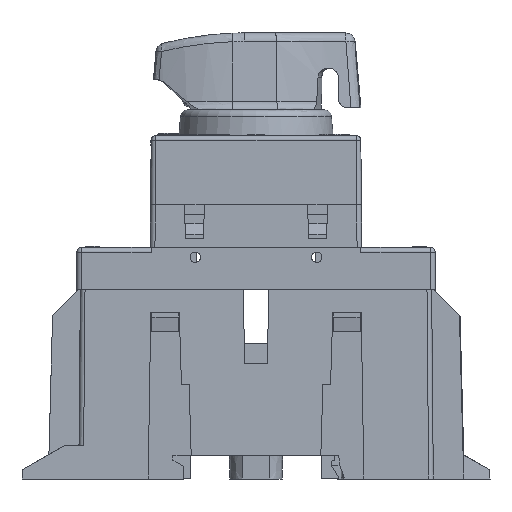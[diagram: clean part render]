
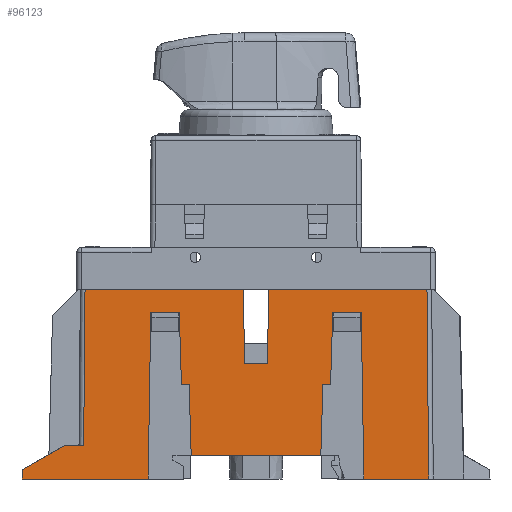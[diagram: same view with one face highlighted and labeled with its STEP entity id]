
A CAD part, left-side view. The second image highlights one B-rep face of the part: STEP entity #96123.
In plain terms, the highlighted planar face has unit normal (-1, 0, 0.009).
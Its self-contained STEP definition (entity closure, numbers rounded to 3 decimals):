
#70594=CARTESIAN_POINT('',(54.351,-23.908,-0.826));
#70595=VERTEX_POINT('',#70594);
#70602=CARTESIAN_POINT('',(54.351,-57.816,-0.826));
#70603=VERTEX_POINT('',#70602);
#70604=CARTESIAN_POINT('',(54.351,-57.816,-0.826));
#70605=DIRECTION('',(0.0,1.0,0.0));
#70606=VECTOR('',#70605,33.908);
#70607=LINE('',#70604,#70606);
#70608=EDGE_CURVE('',#70603,#70595,#70607,.T.);
#70773=CARTESIAN_POINT('',(54.351,15.277,-0.826));
#70774=VERTEX_POINT('',#70773);
#70782=CARTESIAN_POINT('',(54.351,-18.631,-0.826));
#70783=VERTEX_POINT('',#70782);
#70784=CARTESIAN_POINT('',(54.351,-18.631,-0.826));
#70785=DIRECTION('',(0.0,1.0,0.0));
#70786=VECTOR('',#70785,33.908);
#70787=LINE('',#70784,#70786);
#70788=EDGE_CURVE('',#70783,#70774,#70787,.T.);
#93194=CARTESIAN_POINT('',(53.997,1.78,-41.326));
#93195=VERTEX_POINT('',#93194);
#93202=CARTESIAN_POINT('',(53.997,28.748,-41.326));
#93203=VERTEX_POINT('',#93202);
#93204=CARTESIAN_POINT('',(53.997,1.78,-41.326));
#93205=DIRECTION('',(0.0,1.0,0.0));
#93206=VECTOR('',#93205,26.967);
#93207=LINE('',#93204,#93206);
#93208=EDGE_CURVE('',#93195,#93203,#93207,.T.);
#93807=CARTESIAN_POINT('',(54.06,19.568,-34.176));
#93808=VERTEX_POINT('',#93807);
#93815=CARTESIAN_POINT('',(54.06,15.568,-34.176));
#93816=VERTEX_POINT('',#93815);
#93817=CARTESIAN_POINT('',(54.06,15.568,-34.176));
#93818=DIRECTION('',(0.0,1.0,0.0));
#93819=VECTOR('',#93818,4.);
#93820=LINE('',#93817,#93819);
#93821=EDGE_CURVE('',#93816,#93808,#93820,.T.);
#94803=CARTESIAN_POINT('',(54.175,-6.966,-21.026));
#94804=VERTEX_POINT('',#94803);
#94811=CARTESIAN_POINT('',(54.175,-5.322,-21.026));
#94812=VERTEX_POINT('',#94811);
#94813=CARTESIAN_POINT('',(54.175,-6.966,-21.026));
#94814=DIRECTION('',(0.0,1.0,0.0));
#94815=VECTOR('',#94814,1.643);
#94816=LINE('',#94813,#94815);
#94817=EDGE_CURVE('',#94812,#94804,#94816,.F.);
#94932=CARTESIAN_POINT('',(54.308,-37.671,-5.726));
#94933=VERTEX_POINT('',#94932);
#94940=CARTESIAN_POINT('',(54.175,-37.217,-21.026));
#94941=VERTEX_POINT('',#94940);
#94942=CARTESIAN_POINT('',(54.308,-37.671,-5.726));
#94943=DIRECTION('',(-0.009,0.03,-1.));
#94944=VECTOR('',#94943,15.307);
#94945=LINE('',#94942,#94944);
#94946=EDGE_CURVE('',#94941,#94933,#94945,.F.);
#95020=CARTESIAN_POINT('',(54.175,-35.574,-21.026));
#95021=VERTEX_POINT('',#95020);
#95022=CARTESIAN_POINT('',(54.175,-37.217,-21.026));
#95023=DIRECTION('',(0.0,1.0,0.0));
#95024=VECTOR('',#95023,1.643);
#95025=LINE('',#95022,#95024);
#95026=EDGE_CURVE('',#95021,#94941,#95025,.F.);
#95858=CARTESIAN_POINT('',(53.997,-58.17,-41.326));
#95859=VERTEX_POINT('',#95858);
#95860=CARTESIAN_POINT('',(54.351,-57.816,-0.826));
#95861=DIRECTION('',(-0.009,-0.009,-1.));
#95862=VECTOR('',#95861,40.503);
#95863=LINE('',#95860,#95862);
#95864=EDGE_CURVE('',#70603,#95859,#95863,.T.);
#95995=CARTESIAN_POINT('',(54.06,15.568,-34.176));
#95996=DIRECTION('',(0.009,-0.009,1.));
#95997=VECTOR('',#95996,33.353);
#95998=LINE('',#95995,#95997);
#95999=EDGE_CURVE('',#93816,#70774,#95998,.T.);
#96005=CARTESIAN_POINT('',(53.997,15.23,-41.326));
#96006=DIRECTION('',(-1.,0.,0.009));
#96007=DIRECTION('',(-0.009,0.,-1.));
#96008=AXIS2_PLACEMENT_3D('',#96005,#96006,#96007);
#96009=PLANE('',#96008);
#96010=ORIENTED_EDGE('',*,*,#95864,.F.);
#96011=ORIENTED_EDGE('',*,*,#70608,.T.);
#96012=CARTESIAN_POINT('',(54.212,-23.77,-16.726));
#96013=VERTEX_POINT('',#96012);
#96014=CARTESIAN_POINT('',(54.351,-23.908,-0.826));
#96015=DIRECTION('',(-0.009,0.009,-1.));
#96016=VECTOR('',#96015,15.901);
#96017=LINE('',#96014,#96016);
#96018=EDGE_CURVE('',#70595,#96013,#96017,.T.);
#96019=ORIENTED_EDGE('',*,*,#96018,.T.);
#96020=CARTESIAN_POINT('',(54.212,-18.77,-16.726));
#96021=VERTEX_POINT('',#96020);
#96022=CARTESIAN_POINT('',(54.212,-23.77,-16.726));
#96023=DIRECTION('',(0.0,1.0,0.0));
#96024=VECTOR('',#96023,5.);
#96025=LINE('',#96022,#96024);
#96026=EDGE_CURVE('',#96013,#96021,#96025,.T.);
#96027=ORIENTED_EDGE('',*,*,#96026,.T.);
#96028=CARTESIAN_POINT('',(54.212,-18.77,-16.726));
#96029=DIRECTION('',(0.009,0.009,1.));
#96030=VECTOR('',#96029,15.901);
#96031=LINE('',#96028,#96030);
#96032=EDGE_CURVE('',#96021,#70783,#96031,.T.);
#96033=ORIENTED_EDGE('',*,*,#96032,.T.);
#96034=ORIENTED_EDGE('',*,*,#70788,.T.);
#96035=ORIENTED_EDGE('',*,*,#95999,.F.);
#96036=ORIENTED_EDGE('',*,*,#93821,.T.);
#96037=CARTESIAN_POINT('',(54.015,28.73,-39.326));
#96038=VERTEX_POINT('',#96037);
#96039=CARTESIAN_POINT('',(54.015,28.73,-39.326));
#96040=DIRECTION('',(0.004,-0.872,0.49));
#96041=VECTOR('',#96040,10.511);
#96042=LINE('',#96039,#96041);
#96043=EDGE_CURVE('',#93808,#96038,#96042,.F.);
#96044=ORIENTED_EDGE('',*,*,#96043,.T.);
#96045=CARTESIAN_POINT('',(54.015,28.73,-39.326));
#96046=DIRECTION('',(-0.009,0.009,-1.));
#96047=VECTOR('',#96046,2.);
#96048=LINE('',#96045,#96047);
#96049=EDGE_CURVE('',#93203,#96038,#96048,.F.);
#96050=ORIENTED_EDGE('',*,*,#96049,.F.);
#96051=ORIENTED_EDGE('',*,*,#93208,.F.);
#96052=CARTESIAN_POINT('',(54.308,1.221,-5.726));
#96053=VERTEX_POINT('',#96052);
#96054=CARTESIAN_POINT('',(54.308,1.221,-5.726));
#96055=DIRECTION('',(-0.009,0.016,-1.));
#96056=VECTOR('',#96055,35.606);
#96057=LINE('',#96054,#96056);
#96058=EDGE_CURVE('',#93195,#96053,#96057,.F.);
#96059=ORIENTED_EDGE('',*,*,#96058,.T.);
#96060=CARTESIAN_POINT('',(54.308,-4.868,-5.726));
#96061=VERTEX_POINT('',#96060);
#96062=CARTESIAN_POINT('',(54.308,-4.868,-5.726));
#96063=DIRECTION('',(0.0,1.0,0.0));
#96064=VECTOR('',#96063,6.089);
#96065=LINE('',#96062,#96064);
#96066=EDGE_CURVE('',#96053,#96061,#96065,.F.);
#96067=ORIENTED_EDGE('',*,*,#96066,.T.);
#96068=CARTESIAN_POINT('',(54.175,-5.322,-21.026));
#96069=DIRECTION('',(0.009,0.03,1.));
#96070=VECTOR('',#96069,15.307);
#96071=LINE('',#96068,#96070);
#96072=EDGE_CURVE('',#96061,#94812,#96071,.F.);
#96073=ORIENTED_EDGE('',*,*,#96072,.T.);
#96074=ORIENTED_EDGE('',*,*,#94817,.T.);
#96075=CARTESIAN_POINT('',(54.041,-7.42,-36.326));
#96076=VERTEX_POINT('',#96075);
#96077=CARTESIAN_POINT('',(54.041,-7.42,-36.326));
#96078=DIRECTION('',(0.009,0.03,1.));
#96079=VECTOR('',#96078,15.307);
#96080=LINE('',#96077,#96079);
#96081=EDGE_CURVE('',#94804,#96076,#96080,.F.);
#96082=ORIENTED_EDGE('',*,*,#96081,.T.);
#96083=CARTESIAN_POINT('',(54.041,-35.12,-36.326));
#96084=VERTEX_POINT('',#96083);
#96085=CARTESIAN_POINT('',(54.041,-35.12,-36.326));
#96086=DIRECTION('',(0.0,1.0,0.0));
#96087=VECTOR('',#96086,27.7);
#96088=LINE('',#96085,#96087);
#96089=EDGE_CURVE('',#96076,#96084,#96088,.F.);
#96090=ORIENTED_EDGE('',*,*,#96089,.T.);
#96091=CARTESIAN_POINT('',(54.175,-35.574,-21.026));
#96092=DIRECTION('',(-0.009,0.03,-1.));
#96093=VECTOR('',#96092,15.307);
#96094=LINE('',#96091,#96093);
#96095=EDGE_CURVE('',#96084,#95021,#96094,.F.);
#96096=ORIENTED_EDGE('',*,*,#96095,.T.);
#96097=ORIENTED_EDGE('',*,*,#95026,.T.);
#96098=ORIENTED_EDGE('',*,*,#94946,.T.);
#96099=CARTESIAN_POINT('',(54.308,-43.76,-5.726));
#96100=VERTEX_POINT('',#96099);
#96101=CARTESIAN_POINT('',(54.308,-43.76,-5.726));
#96102=DIRECTION('',(0.0,1.0,0.0));
#96103=VECTOR('',#96102,6.089);
#96104=LINE('',#96101,#96103);
#96105=EDGE_CURVE('',#94933,#96100,#96104,.F.);
#96106=ORIENTED_EDGE('',*,*,#96105,.T.);
#96107=CARTESIAN_POINT('',(53.997,-44.32,-41.326));
#96108=VERTEX_POINT('',#96107);
#96109=CARTESIAN_POINT('',(53.997,-44.32,-41.326));
#96110=DIRECTION('',(0.009,0.016,1.));
#96111=VECTOR('',#96110,35.606);
#96112=LINE('',#96109,#96111);
#96113=EDGE_CURVE('',#96100,#96108,#96112,.F.);
#96114=ORIENTED_EDGE('',*,*,#96113,.T.);
#96115=CARTESIAN_POINT('',(53.997,-58.17,-41.326));
#96116=DIRECTION('',(0.0,1.0,0.0));
#96117=VECTOR('',#96116,13.85);
#96118=LINE('',#96115,#96117);
#96119=EDGE_CURVE('',#95859,#96108,#96118,.T.);
#96120=ORIENTED_EDGE('',*,*,#96119,.F.);
#96121=EDGE_LOOP('',(#96010,#96011,#96019,#96027,#96033,#96034,#96035,#96036,#96044,#96050,#96051,#96059,#96067,#96073,#96074,#96082,#96090,#96096,#96097,#96098,#96106,#96114,#96120));
#96122=FACE_OUTER_BOUND('',#96121,.T.);
#96123=ADVANCED_FACE('',(#96122),#96009,.T.);
